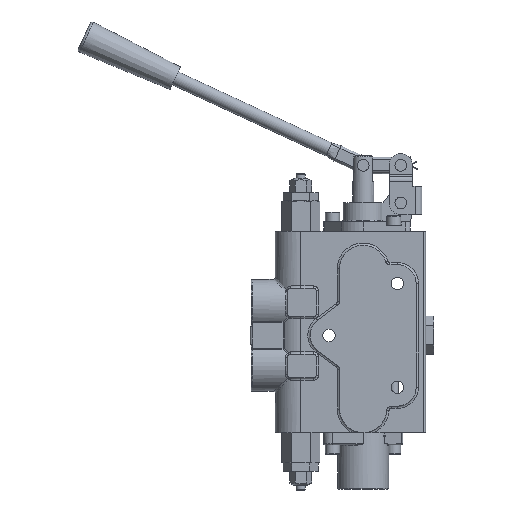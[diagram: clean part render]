
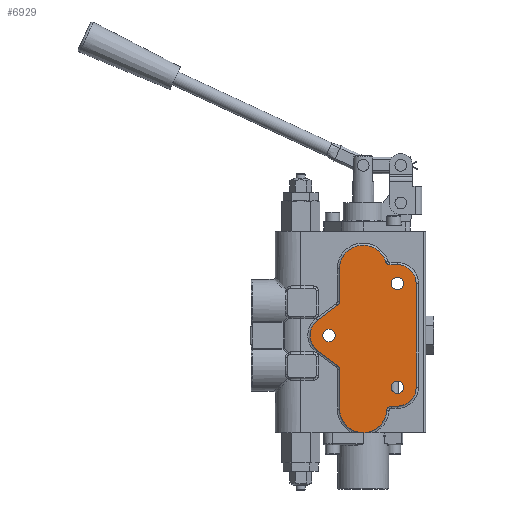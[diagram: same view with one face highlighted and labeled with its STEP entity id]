
A CAD part, left-side view. The second image highlights one B-rep face of the part: STEP entity #6929.
In plain terms, the highlighted planar face has unit normal (-1, 0, 0).
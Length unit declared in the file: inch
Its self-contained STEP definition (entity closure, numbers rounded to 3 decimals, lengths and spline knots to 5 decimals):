
#2722=CARTESIAN_POINT('',(-0.7185,-0.04946,-5.438));
#2723=VERTEX_POINT('',#2722);
#2733=CARTESIAN_POINT('',(-0.7185,0.04946,-5.438));
#2734=VERTEX_POINT('',#2733);
#2735=CARTESIAN_POINT('',(-0.7185,-0.04946,-5.438));
#2736=DIRECTION('',(0.0,1.0,0.0));
#2737=VECTOR('',#2736,0.09891);
#2738=LINE('',#2735,#2737);
#2739=EDGE_CURVE('',#2723,#2734,#2738,.T.);
#6069=CARTESIAN_POINT('',(-0.7185,1.07,-2.86));
#6070=VERTEX_POINT('',#6069);
#6071=CARTESIAN_POINT('',(-0.7185,0.906,-2.86));
#6072=DIRECTION('',(1.0,0.0,0.0));
#6073=DIRECTION('',(0.0,-1.0,0.0));
#6074=AXIS2_PLACEMENT_3D('',#6071,#6072,#6073);
#6075=CIRCLE('',#6074,0.164);
#6076=EDGE_CURVE('',#6070,#6070,#6075,.T.);
#6089=CARTESIAN_POINT('',(-0.7185,-0.742,-1.485));
#6090=VERTEX_POINT('',#6089);
#6091=CARTESIAN_POINT('',(-0.7185,-0.906,-1.485));
#6092=DIRECTION('',(1.0,0.0,0.0));
#6093=DIRECTION('',(0.0,-1.0,0.0));
#6094=AXIS2_PLACEMENT_3D('',#6091,#6092,#6093);
#6095=CIRCLE('',#6094,0.164);
#6096=EDGE_CURVE('',#6090,#6090,#6095,.T.);
#6182=CARTESIAN_POINT('',(-0.7185,-0.742,-4.235));
#6183=VERTEX_POINT('',#6182);
#6184=CARTESIAN_POINT('',(-0.7185,-0.906,-4.235));
#6185=DIRECTION('',(1.0,0.0,0.0));
#6186=DIRECTION('',(0.0,-1.0,0.0));
#6187=AXIS2_PLACEMENT_3D('',#6184,#6185,#6186);
#6188=CIRCLE('',#6187,0.164);
#6189=EDGE_CURVE('',#6183,#6183,#6188,.T.);
#6746=CARTESIAN_POINT('',(-0.7185,-1.656,-0.094));
#6747=DIRECTION('',(-1.0,0.0,0.0));
#6748=DIRECTION('',(0.0,0.0,1.0));
#6749=AXIS2_PLACEMENT_3D('',#6746,#6747,#6748);
#6750=PLANE('',#6749);
#6751=CARTESIAN_POINT('',(-0.7185,-0.18905,-5.41153));
#6752=VERTEX_POINT('',#6751);
#6753=CARTESIAN_POINT('',(-0.7185,-0.18905,-5.41153));
#6754=CARTESIAN_POINT('',(-0.7185,-0.14553,-5.42529));
#6755=CARTESIAN_POINT('',(-0.7185,-0.09966,-5.43386));
#6756=CARTESIAN_POINT('',(-0.7185,-0.05267,-5.43775));
#6757=CARTESIAN_POINT('',(-0.7185,-0.05106,-5.43788));
#6758=CARTESIAN_POINT('',(-0.7185,-0.04946,-5.438));
#6759=B_SPLINE_CURVE_WITH_KNOTS('',3,(#6753,#6754,#6755,#6756,#6757,#6758),.UNSPECIFIED.,.F.,.U.,(4,2,4),(-0.97264,-0.62525,-0.61297),.UNSPECIFIED.);
#6760=EDGE_CURVE('',#6752,#2723,#6759,.T.);
#6761=ORIENTED_EDGE('',*,*,#6760,.F.);
#6762=CARTESIAN_POINT('',(-0.7185,-0.62554,-4.85244));
#6763=VERTEX_POINT('',#6762);
#6764=CARTESIAN_POINT('',(-0.7185,0.,-4.814));
#6765=DIRECTION('',(1.0,0.0,0.0));
#6766=DIRECTION('',(0.0,0.0,-1.0));
#6767=AXIS2_PLACEMENT_3D('',#6764,#6765,#6766);
#6768=CIRCLE('',#6767,0.62672);
#6769=EDGE_CURVE('',#6763,#6752,#6768,.T.);
#6770=ORIENTED_EDGE('',*,*,#6769,.F.);
#6771=CARTESIAN_POINT('',(-0.7185,-0.74859,-4.73672));
#6772=VERTEX_POINT('',#6771);
#6773=CARTESIAN_POINT('',(-0.7185,-0.74859,-4.86));
#6774=DIRECTION('',(-1.0,0.0,0.0));
#6775=DIRECTION('',(0.0,0.0,1.0));
#6776=AXIS2_PLACEMENT_3D('',#6773,#6774,#6775);
#6777=CIRCLE('',#6776,0.12328);
#6778=EDGE_CURVE('',#6772,#6763,#6777,.T.);
#6779=ORIENTED_EDGE('',*,*,#6778,.F.);
#6780=CARTESIAN_POINT('',(-0.7185,-0.906,-4.73672));
#6781=VERTEX_POINT('',#6780);
#6782=CARTESIAN_POINT('',(-0.7185,-0.906,-4.73672));
#6783=DIRECTION('',(0.0,1.0,0.0));
#6784=VECTOR('',#6783,0.15741);
#6785=LINE('',#6782,#6784);
#6786=EDGE_CURVE('',#6781,#6772,#6785,.T.);
#6787=ORIENTED_EDGE('',*,*,#6786,.F.);
#6788=CARTESIAN_POINT('',(-0.7185,-1.40772,-4.235));
#6789=VERTEX_POINT('',#6788);
#6790=CARTESIAN_POINT('',(-0.7185,-0.906,-4.235));
#6791=DIRECTION('',(1.0,0.0,0.0));
#6792=DIRECTION('',(0.0,0.0,-1.0));
#6793=AXIS2_PLACEMENT_3D('',#6790,#6791,#6792);
#6794=CIRCLE('',#6793,0.50172);
#6795=EDGE_CURVE('',#6789,#6781,#6794,.T.);
#6796=ORIENTED_EDGE('',*,*,#6795,.F.);
#6797=CARTESIAN_POINT('',(-0.7185,-1.40772,-1.485));
#6798=VERTEX_POINT('',#6797);
#6799=CARTESIAN_POINT('',(-0.7185,-1.40772,-1.485));
#6800=DIRECTION('',(0.0,0.0,-1.0));
#6801=VECTOR('',#6800,2.75);
#6802=LINE('',#6799,#6801);
#6803=EDGE_CURVE('',#6798,#6789,#6802,.T.);
#6804=ORIENTED_EDGE('',*,*,#6803,.F.);
#6805=CARTESIAN_POINT('',(-0.7185,-0.906,-0.98328));
#6806=VERTEX_POINT('',#6805);
#6807=CARTESIAN_POINT('',(-0.7185,-0.906,-1.485));
#6808=DIRECTION('',(1.0,0.0,0.0));
#6809=DIRECTION('',(0.0,0.0,-1.0));
#6810=AXIS2_PLACEMENT_3D('',#6807,#6808,#6809);
#6811=CIRCLE('',#6810,0.50172);
#6812=EDGE_CURVE('',#6806,#6798,#6811,.T.);
#6813=ORIENTED_EDGE('',*,*,#6812,.F.);
#6814=CARTESIAN_POINT('',(-0.7185,-0.71223,-0.98328));
#6815=VERTEX_POINT('',#6814);
#6816=CARTESIAN_POINT('',(-0.7185,-0.71223,-0.98328));
#6817=DIRECTION('',(0.0,-1.0,0.0));
#6818=VECTOR('',#6817,0.19377);
#6819=LINE('',#6816,#6818);
#6820=EDGE_CURVE('',#6815,#6806,#6819,.T.);
#6821=ORIENTED_EDGE('',*,*,#6820,.F.);
#6822=CARTESIAN_POINT('',(-0.7185,-0.59516,-0.89863));
#6823=VERTEX_POINT('',#6822);
#6824=CARTESIAN_POINT('',(-0.7185,-0.71223,-0.86));
#6825=DIRECTION('',(-1.0,0.0,0.0));
#6826=DIRECTION('',(0.0,0.0,1.0));
#6827=AXIS2_PLACEMENT_3D('',#6824,#6825,#6826);
#6828=CIRCLE('',#6827,0.12328);
#6829=EDGE_CURVE('',#6823,#6815,#6828,.T.);
#6830=ORIENTED_EDGE('',*,*,#6829,.F.);
#6831=CARTESIAN_POINT('',(-0.7185,0.62672,-1.095));
#6832=VERTEX_POINT('',#6831);
#6833=CARTESIAN_POINT('',(-0.7185,0.,-1.095));
#6834=DIRECTION('',(1.0,0.0,0.0));
#6835=DIRECTION('',(0.0,0.0,-1.0));
#6836=AXIS2_PLACEMENT_3D('',#6833,#6834,#6835);
#6837=CIRCLE('',#6836,0.62672);
#6838=EDGE_CURVE('',#6832,#6823,#6837,.T.);
#6839=ORIENTED_EDGE('',*,*,#6838,.F.);
#6840=CARTESIAN_POINT('',(-0.7185,0.62672,-1.95986));
#6841=VERTEX_POINT('',#6840);
#6842=CARTESIAN_POINT('',(-0.7185,0.62672,-1.95986));
#6843=DIRECTION('',(0.0,0.0,1.0));
#6844=VECTOR('',#6843,0.86486);
#6845=LINE('',#6842,#6844);
#6846=EDGE_CURVE('',#6841,#6832,#6845,.T.);
#6847=ORIENTED_EDGE('',*,*,#6846,.F.);
#6848=CARTESIAN_POINT('',(-0.7185,0.67581,-2.05832));
#6849=VERTEX_POINT('',#6848);
#6850=CARTESIAN_POINT('',(-0.7185,0.75,-1.95986));
#6851=DIRECTION('',(-1.0,0.0,0.0));
#6852=DIRECTION('',(0.0,0.0,1.0));
#6853=AXIS2_PLACEMENT_3D('',#6850,#6851,#6852);
#6854=CIRCLE('',#6853,0.12328);
#6855=EDGE_CURVE('',#6849,#6841,#6854,.T.);
#6856=ORIENTED_EDGE('',*,*,#6855,.F.);
#6857=CARTESIAN_POINT('',(-0.7185,1.20794,-2.45931));
#6858=VERTEX_POINT('',#6857);
#6859=CARTESIAN_POINT('',(-0.7185,1.20794,-2.45931));
#6860=DIRECTION('',(0.0,-0.799,0.602));
#6861=VECTOR('',#6860,0.6663);
#6862=LINE('',#6859,#6861);
#6863=EDGE_CURVE('',#6858,#6849,#6862,.T.);
#6864=ORIENTED_EDGE('',*,*,#6863,.F.);
#6865=CARTESIAN_POINT('',(-0.7185,1.20794,-3.26069));
#6866=VERTEX_POINT('',#6865);
#6867=CARTESIAN_POINT('',(-0.7185,0.906,-2.86));
#6868=DIRECTION('',(1.0,0.0,0.0));
#6869=DIRECTION('',(0.0,0.0,-1.0));
#6870=AXIS2_PLACEMENT_3D('',#6867,#6868,#6869);
#6871=CIRCLE('',#6870,0.50172);
#6872=EDGE_CURVE('',#6866,#6858,#6871,.T.);
#6873=ORIENTED_EDGE('',*,*,#6872,.F.);
#6874=CARTESIAN_POINT('',(-0.7185,0.67581,-3.66168));
#6875=VERTEX_POINT('',#6874);
#6876=CARTESIAN_POINT('',(-0.7185,0.67581,-3.66168));
#6877=DIRECTION('',(0.0,0.799,0.602));
#6878=VECTOR('',#6877,0.6663);
#6879=LINE('',#6876,#6878);
#6880=EDGE_CURVE('',#6875,#6866,#6879,.T.);
#6881=ORIENTED_EDGE('',*,*,#6880,.F.);
#6882=CARTESIAN_POINT('',(-0.7185,0.62672,-3.76014));
#6883=VERTEX_POINT('',#6882);
#6884=CARTESIAN_POINT('',(-0.7185,0.75,-3.76014));
#6885=DIRECTION('',(-1.0,0.0,0.0));
#6886=DIRECTION('',(0.0,0.0,1.0));
#6887=AXIS2_PLACEMENT_3D('',#6884,#6885,#6886);
#6888=CIRCLE('',#6887,0.12328);
#6889=EDGE_CURVE('',#6883,#6875,#6888,.T.);
#6890=ORIENTED_EDGE('',*,*,#6889,.F.);
#6891=CARTESIAN_POINT('',(-0.7185,0.62672,-4.814));
#6892=VERTEX_POINT('',#6891);
#6893=CARTESIAN_POINT('',(-0.7185,0.62672,-4.814));
#6894=DIRECTION('',(0.0,0.0,1.0));
#6895=VECTOR('',#6894,1.05386);
#6896=LINE('',#6893,#6895);
#6897=EDGE_CURVE('',#6892,#6883,#6896,.T.);
#6898=ORIENTED_EDGE('',*,*,#6897,.F.);
#6899=CARTESIAN_POINT('',(-0.7185,0.18905,-5.41153));
#6900=VERTEX_POINT('',#6899);
#6901=CARTESIAN_POINT('',(-0.7185,0.,-4.814));
#6902=DIRECTION('',(1.0,0.0,0.0));
#6903=DIRECTION('',(0.0,0.0,-1.0));
#6904=AXIS2_PLACEMENT_3D('',#6901,#6902,#6903);
#6905=CIRCLE('',#6904,0.62672);
#6906=EDGE_CURVE('',#6900,#6892,#6905,.T.);
#6907=ORIENTED_EDGE('',*,*,#6906,.F.);
#6908=CARTESIAN_POINT('',(-0.7185,0.04946,-5.438));
#6909=CARTESIAN_POINT('',(-0.7185,0.06015,-5.43719));
#6910=CARTESIAN_POINT('',(-0.7185,0.07082,-5.43612));
#6911=CARTESIAN_POINT('',(-0.7185,0.11771,-5.43025));
#6912=CARTESIAN_POINT('',(-0.7185,0.1541,-5.42258));
#6913=CARTESIAN_POINT('',(-0.7185,0.18905,-5.41153));
#6914=B_SPLINE_CURVE_WITH_KNOTS('',3,(#6908,#6909,#6910,#6911,#6912,#6913),.UNSPECIFIED.,.F.,.U.,(4,2,4),(-0.3612,-0.27932,0.0),.UNSPECIFIED.);
#6915=EDGE_CURVE('',#2734,#6900,#6914,.T.);
#6916=ORIENTED_EDGE('',*,*,#6915,.F.);
#6917=ORIENTED_EDGE('',*,*,#2739,.F.);
#6918=EDGE_LOOP('',(#6761,#6770,#6779,#6787,#6796,#6804,#6813,#6821,#6830,#6839,#6847,#6856,#6864,#6873,#6881,#6890,#6898,#6907,#6916,#6917));
#6919=FACE_OUTER_BOUND('',#6918,.T.);
#6920=ORIENTED_EDGE('',*,*,#6076,.T.);
#6921=EDGE_LOOP('',(#6920));
#6922=FACE_BOUND('',#6921,.T.);
#6923=ORIENTED_EDGE('',*,*,#6096,.T.);
#6924=EDGE_LOOP('',(#6923));
#6925=FACE_BOUND('',#6924,.T.);
#6926=ORIENTED_EDGE('',*,*,#6189,.T.);
#6927=EDGE_LOOP('',(#6926));
#6928=FACE_BOUND('',#6927,.T.);
#6929=ADVANCED_FACE('',(#6919,#6922,#6925,#6928),#6750,.T.);
